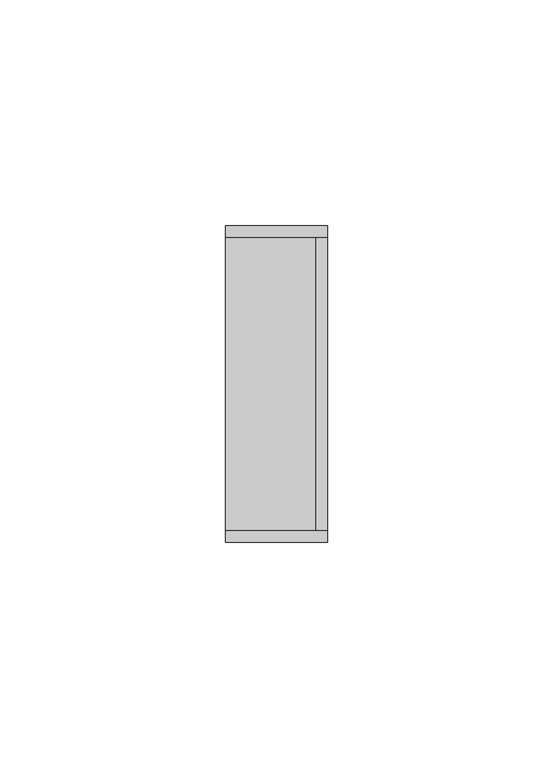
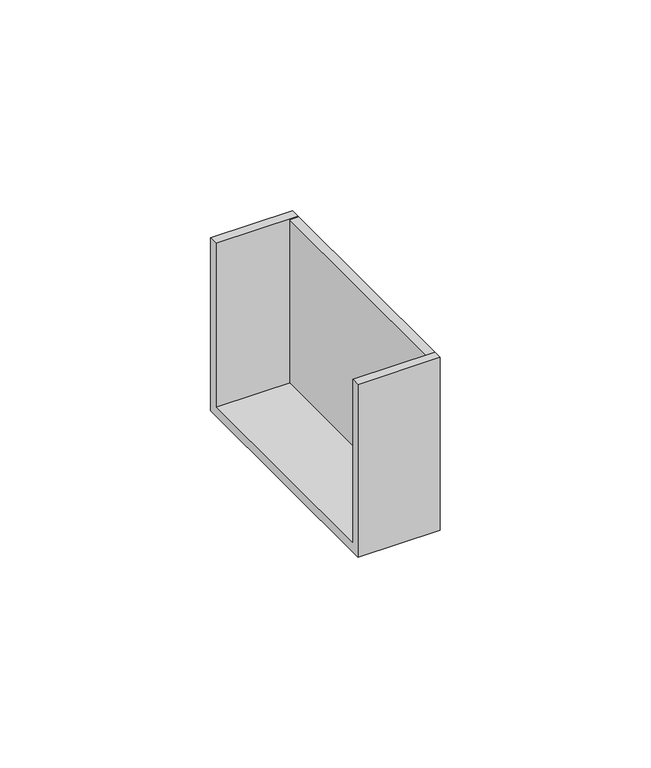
"""IFC4 building model written with IfcOpenShell, lengths in millimetres: cable carrier fitting geometry, КНС_ЗаглушкаТорцевая_ILF_DKC : Заглушка."""

from ifc_helpers import new_model, si_unit, frame, origin, place, context, project, spatial, polyline, outline, extrude, source, transform, mapped, element, save


def cable_carrier_fitting_06068482(model_context):
    return source(origin(), model_context, "Body", "SweptSolid", [
        extrude(outline(polyline([(35.0, -25.0), (-35.0, -25.0), (-35.0, 25.0), (-32.5, 25.0), (-32.5, -22.5), (32.5, -22.5), (32.5, 25.0), (35.0, 25.0), (35.0, -25.0)])), frame((-22.5, 0.0, 0.0), z_axis=(1.0, 0.0, 0.0), x_axis=(0.0, 1.0, 0.0)), (0.0, 0.0, 1.0), 22.5),
        extrude(outline(polyline([(0.0, 32.5), (0.0, -32.5), (-2.5, -32.5), (-2.5, 32.5), (0.0, 32.5)])), frame((0.0, 0.0, -25.0), z_axis=(0.0, 0.0, 1.0), x_axis=(1.0, 0.0, 0.0)), (0.0, 0.0, 1.0), 50.0),
    ])


if __name__ == "__main__":
    model = new_model("IFC4")
    model_context = context("Model", 3, world=origin())
    ifc_project = project(units=[si_unit("LENGTHUNIT", "METRE", prefix="MILLI")], contexts=[model_context])
    site = spatial("IfcSite", under=ifc_project)
    building = spatial("IfcBuilding", under=site)
    placement = place(None, origin())
    cable_carrier_fitting_shape = cable_carrier_fitting_06068482(model_context)
    element("IfcCableCarrierFitting", 1, ObjectType="КНС_ЗаглушкаТорцевая_ILF_DKC : Заглушка", at=placement, inside=building, context=model_context, shape_type="MappedRepresentation", body=[
        mapped(cable_carrier_fitting_shape, transform((0.0, 0.0, 0.0), x_axis=(1.0, 0.0, 0.0), y_axis=(0.0, 1.0, 0.0), z_axis=(0.0, 0.0, 1.0))),
    ])
    save(model, "model.ifc")
